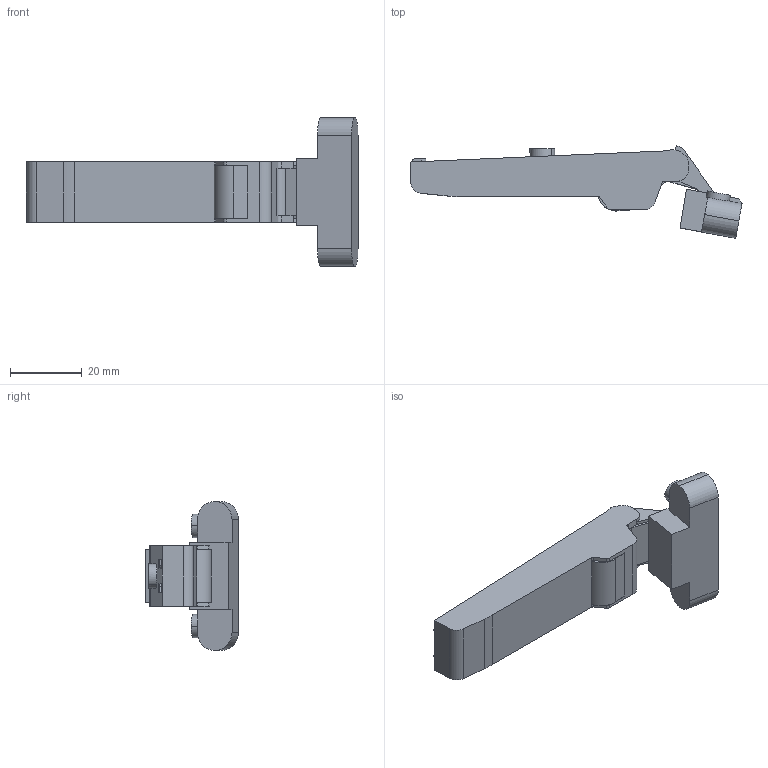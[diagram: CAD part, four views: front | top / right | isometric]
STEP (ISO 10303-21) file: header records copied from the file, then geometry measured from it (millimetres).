
FILE_DESCRIPTION (( 'STEP AP203' ), '1' );
FILE_NAME ('C82A278F-DTC 3D open.STEP', '2024-09-09T03:24:38', ( '微软用户' ), ( '微软中国' ), 'SwSTEP 2.0', 'SolidWorks 2021', '' );
FILE_SCHEMA (( 'CONFIG_CONTROL_DESIGN' ));
Length unit declared in the file: millimetre
Products named in the file (1): C82A278F-DTC 3D open
Bounding box: 92.85 x 25.88 x 41.6 mm (x, y, z)
Volume: 21231.5 mm3; surface area: 7251.3 mm2
Topology: 1 solids, 1 shells, 168 faces, 447 edges, 296 vertices
Faces by surface type: plane 84, bspline 50, cylinder 34
Entity records: 7976 total; most frequent: CARTESIAN_POINT 3994, ORIENTED_EDGE 894, DIRECTION 659, EDGE_CURVE 447, VERTEX_POINT 296, LINE 265, VECTOR 265, AXIS2_PLACEMENT_3D 197
